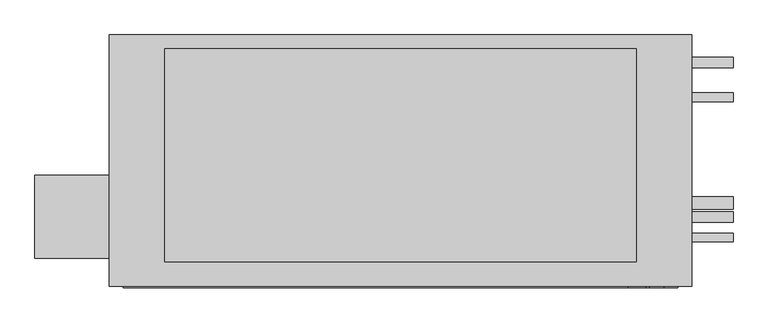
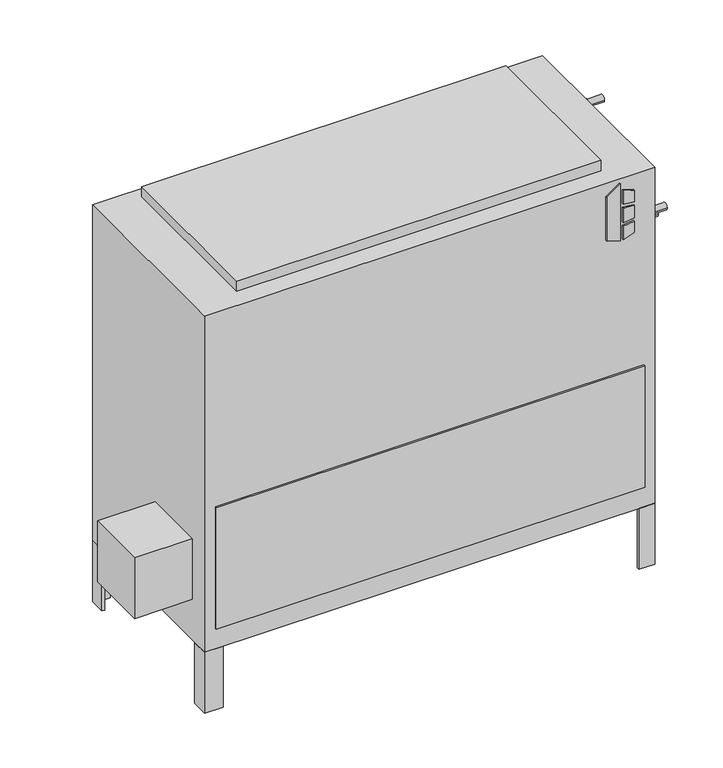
"""IFC4 building model written with IfcOpenShell, lengths in millimetres: proxy geometry, Concealed_High_Capacity_Vertical_Fan_Coil_Unit_-_VEY_-_IEC_-_4-Pipe_RH_2022 : Size 14 - 277v/60Hz/1Ph - 4/2 Coil."""

import ifcopenshell
import ifcopenshell.guid

model = None  # the IFC model being written
_history = None  # IfcOwnerHistory: only IFC2X3 demands one
_inside = {}  # id of a spatial element -> (the spatial element, [elements in it])
_under = {}  # id of a project, library or spatial element -> (it, [spatial elements below it])
_declared = {}  # id of a project -> (the project, [libraries it declares])
_typed = {}  # id of a type object -> (the type object, [elements of that type])
_made_of = {}  # id of a material, layer set ... -> (it, [elements and type objects made of it])


def new_model(schema):
    """Start an empty IFC model of exactly this schema.

    Asked for "IFC4X3", IfcOpenShell would pick the latest addendum, in which some entities
    have other attributes; the version numbers below select the first issue.
    IFC2X3 requires an IfcOwnerHistory on every rooted entity: one is made here for all.
    """
    global model, _history
    if schema == "IFC4X3":
        model = ifcopenshell.file(schema_version=(4, 3, 0, 0))
    else:
        model = ifcopenshell.file(schema=schema)
    _inside.clear()
    _under.clear()
    _declared.clear()
    _typed.clear()
    _made_of.clear()
    _history = None
    if model.schema == "IFC2X3":
        org = make("IfcOrganization", Name="unknown")
        user = make(
            "IfcPersonAndOrganization",
            ThePerson=make("IfcPerson", FamilyName="unknown"),
            TheOrganization=org,
        )
        app = make(
            "IfcApplication",
            ApplicationDeveloper=org,
            Version="unknown",
            ApplicationFullName="unknown",
            ApplicationIdentifier="unknown",
        )
        _history = make(
            "IfcOwnerHistory",
            OwningUser=user,
            OwningApplication=app,
            ChangeAction="ADDED",
            CreationDate=0,
        )
    return model


def make(cls, **values):
    """One entity of the class cls with the attributes given. An attribute that is None is left unset."""
    return model.create_entity(
        cls, **{name: value for name, value in values.items() if value is not None}
    )


def rooted(cls, **values):
    """An entity with a GlobalId (a new one), such as an element, a storey or a relation."""
    return make(cls, GlobalId=ifcopenshell.guid.new(), OwnerHistory=_history, **values)


def si_unit(unit_type, name, prefix=None):
    """IfcSIUnit, for example si_unit("LENGTHUNIT", "METRE", prefix="MILLI")."""
    return make("IfcSIUnit", UnitType=unit_type, Prefix=prefix, Name=name)


def assignment(units):
    """IfcUnitAssignment: the units of a project."""
    return None if units is None else make("IfcUnitAssignment", Units=units)


def point(xyz):
    """IfcCartesianPoint."""
    return None if xyz is None else make("IfcCartesianPoint", Coordinates=xyz)


def direction(xyz):
    """IfcDirection."""
    return None if xyz is None else make("IfcDirection", DirectionRatios=xyz)


def frame(location, z_axis=None, x_axis=None):
    """IfcAxis2Placement3D, a coordinate frame: its origin and axes. An axis left out is left unset."""
    return make(
        "IfcAxis2Placement3D",
        Location=point(location),
        Axis=direction(z_axis),
        RefDirection=direction(x_axis),
    )


def frame_2d(location, x_axis=None):
    """IfcAxis2Placement2D, a coordinate frame in the plane: its origin and x axis."""
    return make(
        "IfcAxis2Placement2D", Location=point(location), RefDirection=direction(x_axis)
    )


def origin():
    """The frame at (0, 0, 0) with its axes left unset."""
    return frame((0.0, 0.0, 0.0))


def origin_with_axes():
    """The frame at (0, 0, 0) with the z axis (0, 0, 1) and the x axis (1, 0, 0) written out."""
    return frame((0.0, 0.0, 0.0), z_axis=(0.0, 0.0, 1.0), x_axis=(1.0, 0.0, 0.0))


def place(relative_to, where):
    """IfcLocalPlacement: puts the frame where relative to a parent placement (None: the world)."""
    return make(
        "IfcLocalPlacement", PlacementRelTo=relative_to, RelativePlacement=where
    )


def context(
    kind, dimensions, precision=None, world=None, true_north=None, identifier=None
):
    """IfcGeometricRepresentationContext, for example the 3D "Model" context."""
    return make(
        "IfcGeometricRepresentationContext",
        ContextIdentifier=identifier,
        ContextType=kind,
        CoordinateSpaceDimension=dimensions,
        Precision=precision,
        WorldCoordinateSystem=world,
        TrueNorth=true_north,
    )


def project(units=None, contexts=None):
    """IfcProject with its units and contexts."""
    return rooted(
        "IfcProject",
        Name="project",
        RepresentationContexts=contexts,
        UnitsInContext=assignment(units),
    )


def spatial(cls, under=None, at=None, **own):
    """A site, building, storey or space (cls), placed at a placement, below another one or the project."""
    s = rooted(cls, ObjectPlacement=at, **own)
    if under is not None:
        _under.setdefault(under.id(), (under, []))[1].append(s)
    return s


def polyline(points):
    """IfcPolyline through the points."""
    return make("IfcPolyline", Points=[point(p) for p in points])


def circle_curve(where, radius):
    """IfcCircle in the frame where."""
    return make("IfcCircle", Position=where, Radius=radius)


def trimmed(basis, trim1, trim2, sense, master):
    """IfcTrimmedCurve: the piece of a basis curve between two trims."""
    return make(
        "IfcTrimmedCurve",
        BasisCurve=basis,
        Trim1=trim1,
        Trim2=trim2,
        SenseAgreement=sense,
        MasterRepresentation=master,
    )


def segment(curve, same_sense, transition):
    """IfcCompositeCurveSegment."""
    return make(
        "IfcCompositeCurveSegment",
        Transition=transition,
        SameSense=same_sense,
        ParentCurve=curve,
    )


def composite_curve(segments, self_intersect=None):
    """IfcCompositeCurve: segments joined end to end."""
    return make("IfcCompositeCurve", Segments=segments, SelfIntersect=self_intersect)


def outline(outer, holes=None, kind="AREA"):
    """IfcArbitraryClosedProfileDef: a profile drawn as a closed curve; with holes, ...WithVoids."""
    if holes is None:
        return make("IfcArbitraryClosedProfileDef", ProfileType=kind, OuterCurve=outer)
    return make(
        "IfcArbitraryProfileDefWithVoids",
        ProfileType=kind,
        OuterCurve=outer,
        InnerCurves=holes,
    )


def extrude(swept, where, along, depth):
    """IfcExtrudedAreaSolid: the profile swept, set in the frame where, extruded along a direction by depth."""
    return make(
        "IfcExtrudedAreaSolid",
        SweptArea=swept,
        Position=where,
        ExtrudedDirection=direction(along),
        Depth=depth,
    )


def shape(context_of_items, identifier, shape_type, items):
    """IfcShapeRepresentation: the items that make up one representation, for example the "Body"."""
    return make(
        "IfcShapeRepresentation",
        ContextOfItems=context_of_items,
        RepresentationIdentifier=identifier,
        RepresentationType=shape_type,
        Items=items,
    )


def source(mapping_origin, context_of_items, identifier, shape_type, items):
    """IfcRepresentationMap: a shape defined once, which mapped items show again and again."""
    return make(
        "IfcRepresentationMap",
        MappingOrigin=mapping_origin,
        MappedRepresentation=shape(context_of_items, identifier, shape_type, items),
    )


def transform(
    local_origin,
    x_axis=None,
    y_axis=None,
    z_axis=None,
    scale=None,
    scale2=None,
    scale3=None,
    uniform=True,
):
    """IfcCartesianTransformationOperator3D, or its non-uniform kind. x_axis, y_axis, z_axis: its Axis1, 2, 3."""
    if uniform:
        return make(
            "IfcCartesianTransformationOperator3D",
            Axis1=direction(x_axis),
            Axis2=direction(y_axis),
            LocalOrigin=point(local_origin),
            Scale=scale,
            Axis3=direction(z_axis),
        )
    return make(
        "IfcCartesianTransformationOperator3DnonUniform",
        Axis1=direction(x_axis),
        Axis2=direction(y_axis),
        LocalOrigin=point(local_origin),
        Scale=scale,
        Axis3=direction(z_axis),
        Scale2=scale2,
        Scale3=scale3,
    )


def mapped(mapping_source, mapping_target):
    """IfcMappedItem: shows the shape of a source again, moved by a transform."""
    return make(
        "IfcMappedItem", MappingSource=mapping_source, MappingTarget=mapping_target
    )


def made_of(thing, what):
    """Note that an element or type object is made of a material, layer set ...; save() writes the relation."""
    if what is not None:
        _made_of.setdefault(what.id(), (what, []))[1].append(thing)
    return thing


def element(
    cls,
    number,
    at=None,
    inside=None,
    cuts=None,
    type_object=None,
    material=None,
    context=None,
    identifier="Body",
    shape_type=None,
    held_by="IfcProductDefinitionShape",
    body=None,
    shapes=None,
    **own,
):
    """One element of the class cls, such as IfcWall. Its Tag is "e" and its number.

    at: its placement. inside: the storey or other place that contains it. cuts: it is an
    opening in that element (IfcRelVoidsElement). A single representation is given by context,
    identifier, shape_type and body (its items); several are given by shapes. held_by: the class
    of the entity that holds the representations. save() writes the other relations.
    """
    e = rooted(cls, Tag="e%d" % number, ObjectPlacement=at, **own)
    if body is not None:
        shapes = [shape(context, identifier, shape_type, body)]
    if shapes is not None:
        e.Representation = make(held_by, Representations=shapes)
    if inside is not None:
        _inside.setdefault(inside.id(), (inside, []))[1].append(e)
    if cuts is not None:
        rooted(
            "IfcRelVoidsElement", RelatingBuildingElement=cuts, RelatedOpeningElement=e
        )
    if type_object is not None:
        _typed.setdefault(type_object.id(), (type_object, []))[1].append(e)
    return made_of(e, material)


def aggregate(whole, parts):
    """IfcRelAggregates: a whole, such as a stair, and the parts it consists of."""
    return rooted("IfcRelAggregates", RelatingObject=whole, RelatedObjects=parts)


def save(model, path):
    """Write the relations noted so far, then the file.

    IfcRelAggregates (storeys below a building ...), IfcRelContainedInSpatialStructure (elements
    in a storey), IfcRelDefinesByType, IfcRelAssociatesMaterial and IfcRelDeclares: one each for
    every whole, place, type object, material and project.
    """
    for whole, parts in _under.values():
        aggregate(whole, parts)
    for where, things in _inside.values():
        rooted(
            "IfcRelContainedInSpatialStructure",
            RelatedElements=things,
            RelatingStructure=where,
        )
    for kind, things in _typed.values():
        rooted("IfcRelDefinesByType", RelatedObjects=things, RelatingType=kind)
    for what, things in _made_of.values():
        rooted("IfcRelAssociatesMaterial", RelatedObjects=things, RelatingMaterial=what)
    for by, libraries in _declared.values():
        rooted("IfcRelDeclares", RelatingContext=by, RelatedDefinitions=libraries)
    model.write(path)


def mechanical_equipment_6edb243e(model_context):
    return source(origin(), model_context, "Body", "SweptSolid", [
        extrude(outline(polyline([(698.9230703, 569.9868862), (688.975, 602.1602728), (831.1459244, 602.1602728), (808.1239183, 569.9868862), (698.9230703, 569.9868862)])), frame((0.0, -471.4875, 0.0), z_axis=(0.0, 1.0, 0.0), x_axis=(0.0, 0.0, 1.0)), (0.0, 0.0, 1.0), 3.175),
        extrude(outline(polyline([(777.9223557, 608.9186058), (774.7199632, 635.0), (803.9488042, 635.0), (812.0132193, 608.9186058), (777.9223557, 608.9186058)])), frame((0.0, -471.4875, 0.0), z_axis=(0.0, 1.0, 0.0), x_axis=(0.0, 0.0, 1.0)), (0.0, 0.0, 1.0), 3.175),
        extrude(outline(polyline([(726.0588288, 635.0), (722.3933279, 608.9186058), (688.975, 608.9186058), (697.6092372, 635.0), (726.0588288, 635.0)])), frame((0.0, -471.4875, 0.0), z_axis=(0.0, 1.0, 0.0), x_axis=(0.0, 0.0, 1.0)), (0.0, 0.0, 1.0), 3.175),
        extrude(outline(polyline([(765.3739903, 635.0), (767.6558166, 608.9186058), (731.7182681, 608.9186058), (734.4595331, 635.0), (765.3739903, 635.0)])), frame((0.0, -471.4875, 0.0), z_axis=(0.0, 1.0, 0.0), x_axis=(0.0, 0.0, 1.0)), (0.0, 0.0, 1.0), 3.175),
        extrude(outline(polyline([(-517.525, -417.5125), (-517.525, -265.1125), (-381.0, -265.1125), (-381.0, -417.5125), (-517.525, -417.5125)])), frame((0.0, 0.0, 101.6), z_axis=(0.0, 0.0, 1.0), x_axis=(1.0, 0.0, 0.0)), (0.0, 0.0, 1.0), 152.4),
        extrude(outline(polyline([(685.8, -46.0375), (679.45, -46.0375), (679.45, -14.2875), (647.7, -14.2875), (647.7, -7.9375), (685.8, -7.9375), (685.8, -46.0375)])), frame((0.0, 0.0, -152.4), z_axis=(0.0, 0.0, 1.0), x_axis=(1.0, 0.0, 0.0)), (0.0, 0.0, 1.0), 152.4),
        extrude(outline(polyline([(-342.9, -7.9375), (-342.9, -14.2875), (-374.65, -14.2875), (-374.65, -46.0375), (-381.0, -46.0375), (-381.0, -7.9375), (-342.9, -7.9375)])), frame((0.0, 0.0, -152.4), z_axis=(0.0, 0.0, 1.0), x_axis=(1.0, 0.0, 0.0)), (0.0, 0.0, 1.0), 152.4),
        extrude(outline(polyline([(647.7, -468.3125), (647.7, -461.9625), (679.45, -461.9625), (679.45, -430.2125), (685.8, -430.2125), (685.8, -468.3125), (647.7, -468.3125)])), frame((0.0, 0.0, -152.4), z_axis=(0.0, 0.0, 1.0), x_axis=(1.0, 0.0, 0.0)), (0.0, 0.0, 1.0), 152.4),
        extrude(outline(polyline([(-381.0, -428.1199163), (-374.65, -428.1199163), (-374.65, -461.9625), (-337.5318533, -461.9625), (-337.5318533, -468.3125), (-381.0, -468.3125), (-381.0, -428.1199163)])), frame((0.0, 0.0, -152.4), z_axis=(0.0, 0.0, 1.0), x_axis=(1.0, 0.0, 0.0)), (0.0, 0.0, 1.0), 152.4),
        extrude(outline(polyline([(584.2, -33.3375), (584.2, -423.8625), (-279.4, -423.8625), (-279.4, -33.3375), (584.2, -33.3375)])), frame((0.0, 0.0, 841.375), z_axis=(0.0, 0.0, 1.0), x_axis=(1.0, 0.0, 0.0)), (0.0, 0.0, 1.0), 25.4),
        extrude(outline(polyline([(660.4, -471.4875), (-355.6, -471.4875), (-355.6, -468.3125), (660.4, -468.3125), (660.4, -471.4875)])), frame((0.0, 0.0, 50.8), z_axis=(0.0, 0.0, 1.0), x_axis=(1.0, 0.0, 0.0)), (0.0, 0.0, 1.0), 304.8),
        extrude(outline(composite_curve([segment(trimmed(circle_curve(frame_2d((-122.2375, 777.875)), 7.9375), [point((-114.3, 777.875))], [point((-130.175, 777.875))], False, "CARTESIAN"), True, "CONTINUOUS"), segment(trimmed(circle_curve(frame_2d((-122.2375, 777.875)), 7.9375), [point((-130.175, 777.875))], [point((-114.3, 777.875))], False, "CARTESIAN"), True, "CONTINUOUS")], self_intersect=False)), frame((685.8, 0.0, 0.0), z_axis=(1.0, 0.0, 0.0), x_axis=(0.0, 1.0, 0.0)), (0.0, 0.0, 1.0), 76.2),
        extrude(outline(composite_curve([segment(trimmed(circle_curve(frame_2d((-379.4125, 663.575)), 7.9375), [point((-371.475, 663.575))], [point((-387.35, 663.575))], False, "CARTESIAN"), True, "CONTINUOUS"), segment(trimmed(circle_curve(frame_2d((-379.4125, 663.575)), 7.9375), [point((-387.35, 663.575))], [point((-371.475, 663.575))], False, "CARTESIAN"), True, "CONTINUOUS")], self_intersect=False)), frame((685.8, 0.0, 0.0), z_axis=(1.0, 0.0, 0.0), x_axis=(0.0, 1.0, 0.0)), (0.0, 0.0, 1.0), 76.2),
        extrude(outline(composite_curve([segment(trimmed(circle_curve(frame_2d((-58.7375, 727.075)), 9.525), [point((-49.2125, 727.075))], [point((-68.2625, 727.075))], False, "CARTESIAN"), True, "CONTINUOUS"), segment(trimmed(circle_curve(frame_2d((-58.7375, 727.075)), 9.525), [point((-68.2625, 727.075))], [point((-49.2125, 727.075))], False, "CARTESIAN"), True, "CONTINUOUS")], self_intersect=False)), frame((685.8, 0.0, 0.0), z_axis=(1.0, 0.0, 0.0), x_axis=(0.0, 1.0, 0.0)), (0.0, 0.0, 1.0), 76.2),
        extrude(outline(composite_curve([segment(trimmed(circle_curve(frame_2d((-341.3125, 625.475)), 9.525), [point((-331.7875, 625.475))], [point((-350.8375, 625.475))], False, "CARTESIAN"), True, "CONTINUOUS"), segment(trimmed(circle_curve(frame_2d((-341.3125, 625.475)), 9.525), [point((-350.8375, 625.475))], [point((-331.7875, 625.475))], False, "CARTESIAN"), True, "CONTINUOUS")], self_intersect=False)), frame((685.8, 0.0, 0.0), z_axis=(1.0, 0.0, 0.0), x_axis=(0.0, 1.0, 0.0)), (0.0, 0.0, 1.0), 76.2),
        extrude(outline(composite_curve([segment(trimmed(circle_curve(frame_2d((-315.9125, 536.575)), 11.1125), [point((-304.8, 536.575))], [point((-327.025, 536.575))], False, "CARTESIAN"), True, "CONTINUOUS"), segment(trimmed(circle_curve(frame_2d((-315.9125, 536.575)), 11.1125), [point((-327.025, 536.575))], [point((-304.8, 536.575))], False, "CARTESIAN"), True, "CONTINUOUS")], self_intersect=False)), frame((685.8, 0.0, 0.0), z_axis=(1.0, 0.0, 0.0), x_axis=(0.0, 1.0, 0.0)), (0.0, 0.0, 1.0), 76.2),
        extrude(outline(polyline([(685.8, -7.9375), (685.8, -468.3125), (-381.0, -468.3125), (-381.0, -7.9375), (685.8, -7.9375)])), origin_with_axes(), (0.0, 0.0, 1.0), 841.375),
    ])


if __name__ == "__main__":
    model = new_model("IFC4")
    model_context = context("Model", 3, world=origin())
    ifc_project = project(units=[si_unit("LENGTHUNIT", "METRE", prefix="MILLI")], contexts=[model_context])
    site = spatial("IfcSite", under=ifc_project)
    building = spatial("IfcBuilding", under=site)
    placement = place(None, origin())
    mechanical_equipment_shape = mechanical_equipment_6edb243e(model_context)
    element("IfcBuildingElementProxy", 1, Name="Concealed_High_Capacity_Vertical_Fan_Coil_Unit_-_VEY_-_IEC_-_4-Pipe_RH_2022 : Size 14 - 277v/60Hz/1Ph - 4/2 Coil", ObjectType="Concealed_High_Capacity_Vertical_Fan_Coil_Unit_-_VEY_-_IEC_-_4-Pipe_RH_2022 : Size 14 - 277v/60Hz/1Ph - 4/2 Coil", at=placement, inside=building, context=model_context, shape_type="MappedRepresentation", body=[
        mapped(mechanical_equipment_shape, transform((0.0, 0.0, 0.0), x_axis=(1.0, 0.0, 0.0), y_axis=(0.0, 1.0, 0.0), z_axis=(0.0, 0.0, 1.0))),
    ])
    save(model, "model.ifc")
